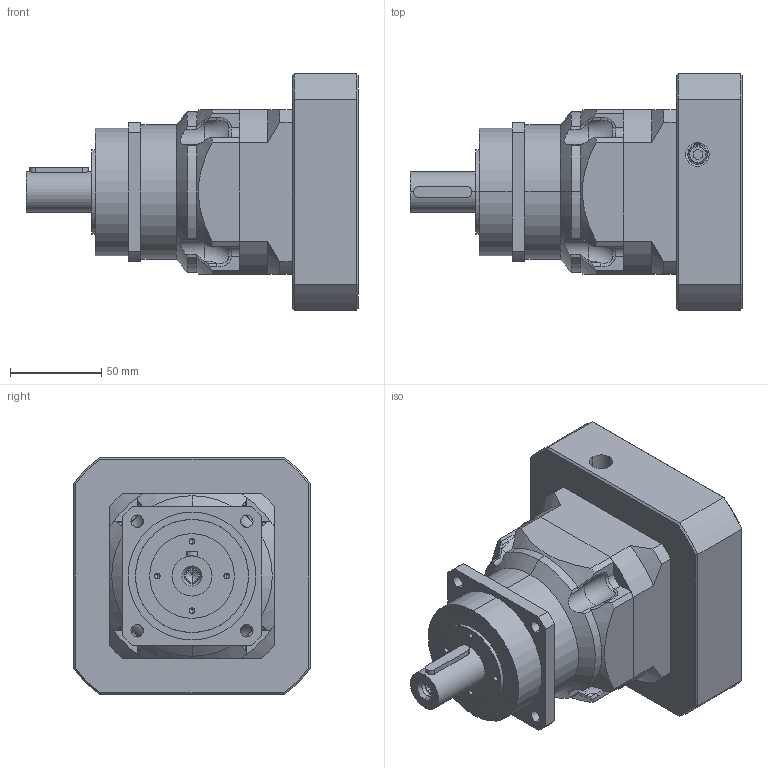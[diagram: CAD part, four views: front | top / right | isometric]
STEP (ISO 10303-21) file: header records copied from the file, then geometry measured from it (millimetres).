
FILE_DESCRIPTION (( 'STEP AP203' ), '1' );
FILE_NAME ('5A3YS.110130.143.STEP', '2019-04-22T02:57:33', ( '' ), ( '' ), 'SwSTEP 2.0', 'SolidWorks 2010', '' );
FILE_SCHEMA (( 'CONFIG_CONTROL_DESIGN' ));
Length unit declared in the file: millimetre
Products named in the file (7): 螺絲-M6x16L_M6*16L; PEL90-後蓋-2141C30200_3.成品; 5A3YS.110130.143; 雙圓鍵-90-115_6x6x32; PUL75本體_PUL75單段-24; 螺絲-M5x20L_M5x20L; PEL90連接板234BC35312_2.銑工
Assembly tree (9 placements, depth 2):
  5A3YS.110130.143
    PEL90-後蓋-2141C30200_3.成品
    PEL90連接板234BC35312_2.銑工
    螺絲-M6x16L_M6*16L
    螺絲-M5x20L_M5x20L  x4
    雙圓鍵-90-115_6x6x32
    PUL75本體_PUL75單段-24
Bounding box: 182 x 130 x 130 mm (x, y, z)
Volume: 1071541.2 mm3; surface area: 153202 mm2
Topology: 9 solids, 9 shells, 482 faces, 1169 edges, 732 vertices
Faces by surface type: cylinder 200, plane 169, cone 79, bspline 28, torus 6
Entity records: 15198 total; most frequent: CARTESIAN_POINT 4392, DIRECTION 2081, ORIENTED_EDGE 2054, EDGE_CURVE 1027, AXIS2_PLACEMENT_3D 823, VERTEX_POINT 660, EDGE_LOOP 513, LINE 435
